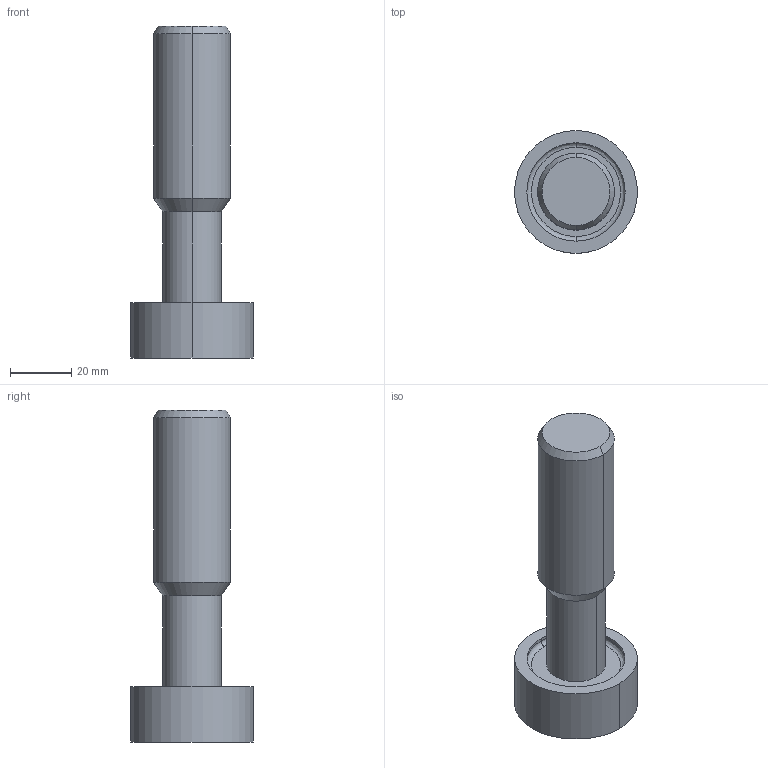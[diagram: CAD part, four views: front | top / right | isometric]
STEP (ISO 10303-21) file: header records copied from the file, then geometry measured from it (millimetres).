
FILE_DESCRIPTION((''),'2;1');
FILE_NAME('DIN4003_82_HEURO','2016-04-14T',('moesset'),(''),'PRO/ENGINEER BY PARAMETRIC TECHNOLOGY CORPORATION, 2015280','PRO/ENGINEER BY PARAMETRIC TECHNOLOGY CORPORATION, 2015280','');
FILE_SCHEMA(('AUTOMOTIVE_DESIGN { 1 0 10303 214 1 1 1 1 }'));
Length unit declared in the file: millimetre
Products named in the file (1): DIN4003_82_HEURO
Bounding box: 40 x 40 x 108 mm (x, y, z)
Volume: 56832.5 mm3; surface area: 11946.5 mm2
Topology: 1 solids, 1 shells, 25 faces, 53 edges, 35 vertices
Faces by surface type: bspline 25
Entity records: 1689 total; most frequent: CARTESIAN_POINT 834, DIRECTION 117, ORIENTED_EDGE 96, EDGE_CURVE 48, AXIS2_PLACEMENT_3D 46, PRESENTATION_STYLE_ASSIGNMENT 39, STYLED_ITEM 39, CIRCLE 34
